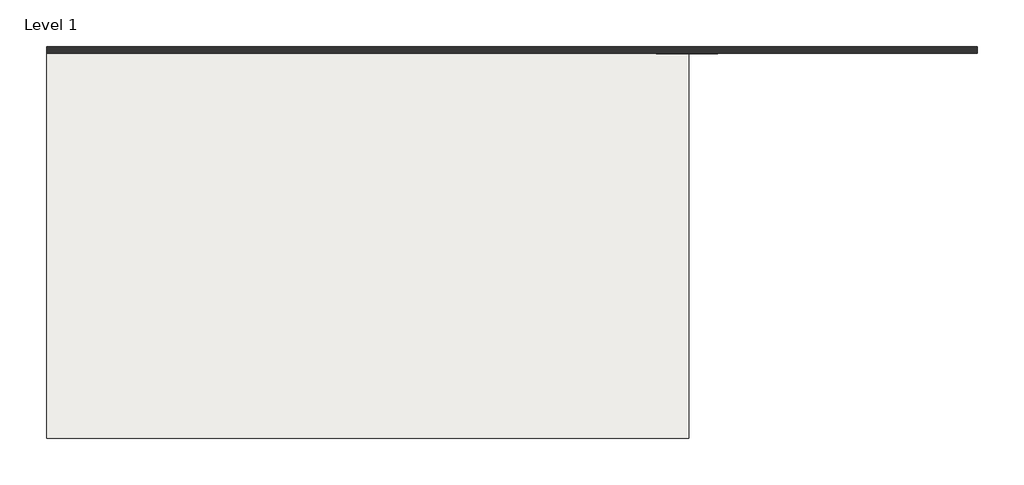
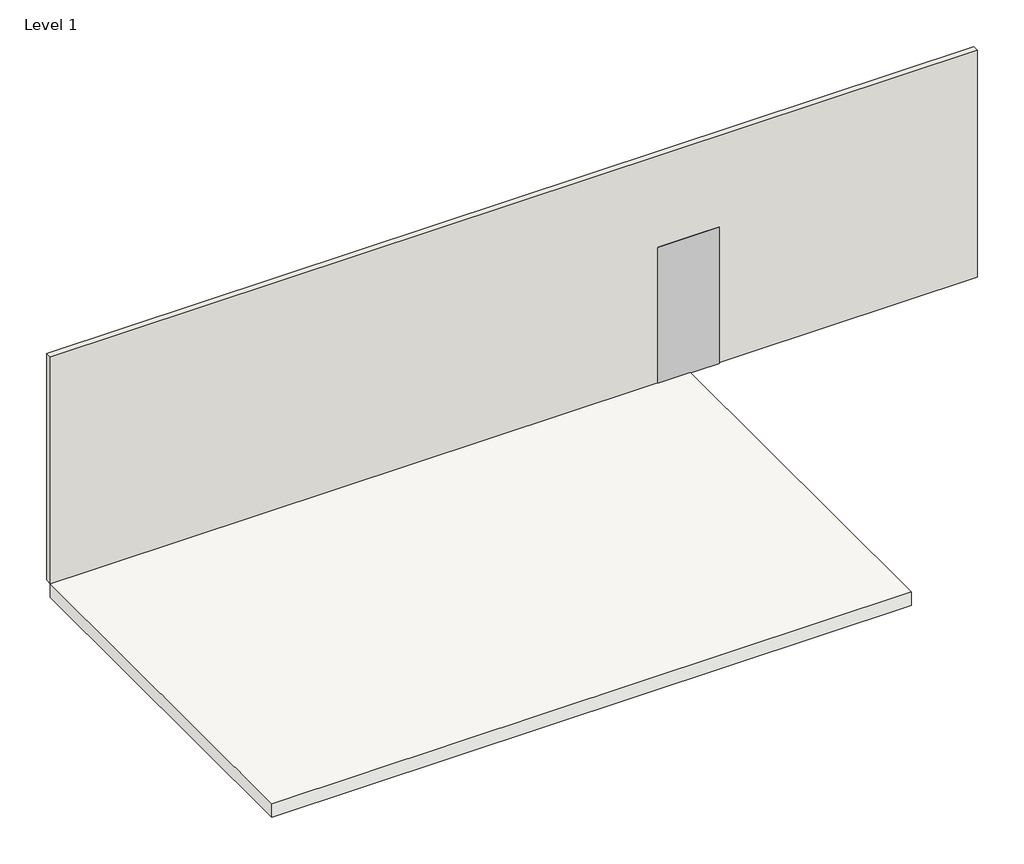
# One storey: 1 proxy, 1 slab, 1 wall.
"""IFC4 building model written with IfcOpenShell, lengths in millimetres."""

from ifc_helpers import new_model, si_unit, frame, origin, origin_with_axes, place, context, project, spatial, polyline, outline, extrude, transform, mapped, element, save
from components import square_2_0_f73d159b

model = new_model("IFC4")

# Units and contexts
model_context = context("Model", 3, world=origin())
ifc_project = project(units=[si_unit("LENGTHUNIT", "METRE", prefix="MILLI")], contexts=[model_context])

# Site, building, storey
site = spatial("IfcSite", under=ifc_project)
building = spatial("IfcBuilding", under=site)
storey = spatial("IfcBuildingStorey", under=building, Name="Level 1", Elevation=0.0)

# Proxy
placement = place(None, origin())
square_2_0_shape = square_2_0_f73d159b(model_context)
element("IfcBuildingElementProxy", 1, Name="Wall-Panel-Kirei-Square_Panels : Square 2.0", ObjectType="Wall-Panel-Kirei-Square_Panels : Square 2.0", at=placement, inside=storey, context=model_context, shape_type="MappedRepresentation", body=[
    mapped(square_2_0_shape, transform((1490.7128985, 6040.5236992, 1365.25), x_axis=(1.0, 0.0, 0.0), y_axis=(0.0, 0.0, 1.0), z_axis=(0.0, -1.0, 0.0))),
])

# Slab
element("IfcSlab", 2, ObjectType="Wood Joist 10\" - Wood Finish", at=placement, inside=storey, context=model_context, shape_type="SweptSolid", body=[
    extrude(outline(polyline([(-10693.6472578, -1274.6763008), (-10693.6472578, 6040.5236992), (1498.3527422, 6040.5236992), (1498.3527422, -1274.6763008), (-10693.6472578, -1274.6763008)])), frame((0.0, 0.0, -273.05), z_axis=(0.0, 0.0, 1.0), x_axis=(1.0, 0.0, 0.0)), (0.0, 0.0, 1.0), 273.05),
])

# Wall
element("IfcWall", 3, ObjectType="Interior - 5\" Partition (2-hr)", at=placement, inside=storey, context=model_context, shape_type="SweptSolid", body=[
    extrude(outline(polyline([(6984.7527422, 6040.5236992), (-10693.6472578, 6040.5236992), (-10693.6472578, 6167.5236992), (6984.7527422, 6167.5236992), (6984.7527422, 6040.5236992)])), origin_with_axes(), (0.0, 0.0, 1.0), 4572.0),
])

save(model, "model.ifc")
